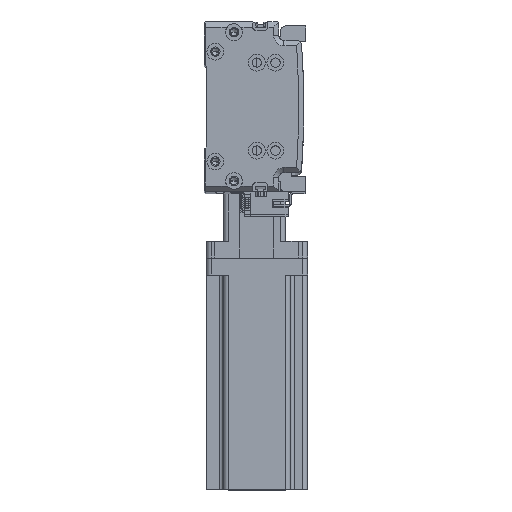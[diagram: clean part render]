
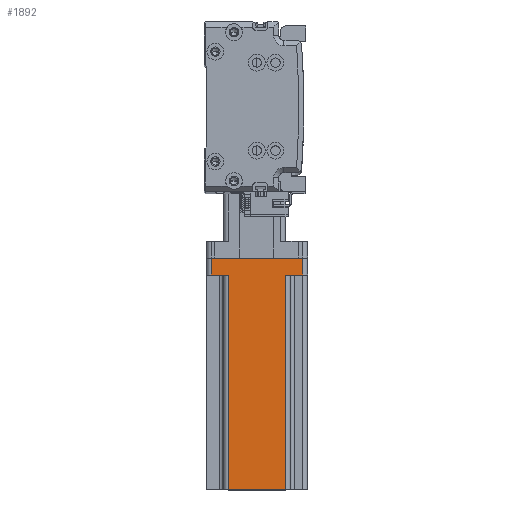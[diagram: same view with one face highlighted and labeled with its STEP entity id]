
A CAD part, top view. The second image highlights one B-rep face of the part: STEP entity #1892.
In plain terms, the highlighted planar face has unit normal (0, 0, 1) as drawn and (0, 1, 0) by its records, which use the part's own axes.
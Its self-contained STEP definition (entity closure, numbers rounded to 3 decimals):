
#1436 = EDGE_CURVE ( 'NONE', #23696, #40450, #10378, .T. ) ;
#1892 = ADVANCED_FACE ( 'NONE', ( #35600 ), #29177, .F. ) ;
#3556 = CARTESIAN_POINT ( 'NONE',  ( 30., 30., 137. ) ) ;
#4422 = CARTESIAN_POINT ( 'NONE',  ( -17., 30., 137. ) ) ;
#4425 = CARTESIAN_POINT ( 'NONE',  ( -27., 30., 0. ) ) ;
#5751 = CARTESIAN_POINT ( 'NONE',  ( -17., 30., 137. ) ) ;
#5811 = VERTEX_POINT ( 'NONE', #11049 ) ;
#6377 = LINE ( 'NONE', #12240, #15545 ) ;
#7827 = LINE ( 'NONE', #13173, #28349 ) ;
#8321 = DIRECTION ( 'NONE',  ( 1., 0., 0. ) ) ;
#9759 = DIRECTION ( 'NONE',  ( 0., 0., -1. ) ) ;
#10378 = LINE ( 'NONE', #11831, #19499 ) ;
#11049 = CARTESIAN_POINT ( 'NONE',  ( 17., 30., 10. ) ) ;
#11378 = ORIENTED_EDGE ( 'NONE', *, *, #25438, .T. ) ;
#11454 = DIRECTION ( 'NONE',  ( -1., 0., 0. ) ) ;
#11831 = CARTESIAN_POINT ( 'NONE',  ( 30., 30., 0. ) ) ;
#12240 = CARTESIAN_POINT ( 'NONE',  ( -20., 30., 10. ) ) ;
#13173 = CARTESIAN_POINT ( 'NONE',  ( 17., 30., 137. ) ) ;
#13251 = CARTESIAN_POINT ( 'NONE',  ( 20., 30., 10. ) ) ;
#15362 = ORIENTED_EDGE ( 'NONE', *, *, #49609, .T. ) ;
#15545 = VECTOR ( 'NONE', #8321, 1000. ) ;
#16114 = CARTESIAN_POINT ( 'NONE',  ( 17., 30., 137. ) ) ;
#19021 = VECTOR ( 'NONE', #31493, 1000. ) ;
#19499 = VECTOR ( 'NONE', #11454, 1000. ) ;
#19503 = EDGE_CURVE ( 'NONE', #48096, #23696, #21082, .T. ) ;
#20112 = ORIENTED_EDGE ( 'NONE', *, *, #48453, .F. ) ;
#21082 = LINE ( 'NONE', #32697, #48188 ) ;
#21292 = CARTESIAN_POINT ( 'NONE',  ( -17., 30., 10. ) ) ;
#22839 = LINE ( 'NONE', #3556, #43290 ) ;
#23696 = VERTEX_POINT ( 'NONE', #43009 ) ;
#23934 = ORIENTED_EDGE ( 'NONE', *, *, #19503, .T. ) ;
#24147 = LINE ( 'NONE', #32470, #33166 ) ;
#24530 = LINE ( 'NONE', #13251, #43812 ) ;
#25438 = EDGE_CURVE ( 'NONE', #49128, #5811, #7827, .T. ) ;
#26250 = EDGE_CURVE ( 'NONE', #34124, #35442, #6377, .T. ) ;
#28067 = DIRECTION ( 'NONE',  ( 0., 0., 1. ) ) ;
#28349 = VECTOR ( 'NONE', #44013, 1000. ) ;
#28553 = DIRECTION ( 'NONE',  ( 1., 0., 0. ) ) ;
#28560 = DIRECTION ( 'NONE',  ( 0., -1., 0. ) ) ;
#28657 = CARTESIAN_POINT ( 'NONE',  ( 30., 30., 137. ) ) ;
#29177 = PLANE ( 'NONE',  #35747 ) ;
#30632 = DIRECTION ( 'NONE',  ( -1., 0., 0. ) ) ;
#30889 = ORIENTED_EDGE ( 'NONE', *, *, #48769, .F. ) ;
#31493 = DIRECTION ( 'NONE',  ( 0., 0., 1. ) ) ;
#32470 = CARTESIAN_POINT ( 'NONE',  ( -27., 30., 137. ) ) ;
#32524 = VERTEX_POINT ( 'NONE', #5751 ) ;
#32697 = CARTESIAN_POINT ( 'NONE',  ( 27., 30., 137. ) ) ;
#33166 = VECTOR ( 'NONE', #28067, 1000. ) ;
#34124 = VERTEX_POINT ( 'NONE', #38321 ) ;
#35236 = EDGE_CURVE ( 'NONE', #40450, #34124, #24147, .T. ) ;
#35442 = VERTEX_POINT ( 'NONE', #21292 ) ;
#35600 = FACE_OUTER_BOUND ( 'NONE', #40775, .T. ) ;
#35747 = AXIS2_PLACEMENT_3D ( 'NONE', #28657, #28560, #28553 ) ;
#38321 = CARTESIAN_POINT ( 'NONE',  ( -27., 30., 10. ) ) ;
#40450 = VERTEX_POINT ( 'NONE', #4425 ) ;
#40775 = EDGE_LOOP ( 'NONE', ( #45525, #15362, #20112, #11378, #30889, #23934, #40800, #44997 ) ) ;
#40800 = ORIENTED_EDGE ( 'NONE', *, *, #1436, .T. ) ;
#43009 = CARTESIAN_POINT ( 'NONE',  ( 27., 30., 0. ) ) ;
#43140 = CARTESIAN_POINT ( 'NONE',  ( 27., 30., 10. ) ) ;
#43290 = VECTOR ( 'NONE', #30632, 1000. ) ;
#43812 = VECTOR ( 'NONE', #47958, 1000. ) ;
#44013 = DIRECTION ( 'NONE',  ( 0., 0., -1. ) ) ;
#44997 = ORIENTED_EDGE ( 'NONE', *, *, #35236, .T. ) ;
#45525 = ORIENTED_EDGE ( 'NONE', *, *, #26250, .T. ) ;
#47958 = DIRECTION ( 'NONE',  ( -1., 0., 0. ) ) ;
#48096 = VERTEX_POINT ( 'NONE', #43140 ) ;
#48188 = VECTOR ( 'NONE', #9759, 1000. ) ;
#48453 = EDGE_CURVE ( 'NONE', #49128, #32524, #22839, .T. ) ;
#48512 = LINE ( 'NONE', #4422, #19021 ) ;
#48769 = EDGE_CURVE ( 'NONE', #48096, #5811, #24530, .T. ) ;
#49128 = VERTEX_POINT ( 'NONE', #16114 ) ;
#49609 = EDGE_CURVE ( 'NONE', #35442, #32524, #48512, .T. ) ;
